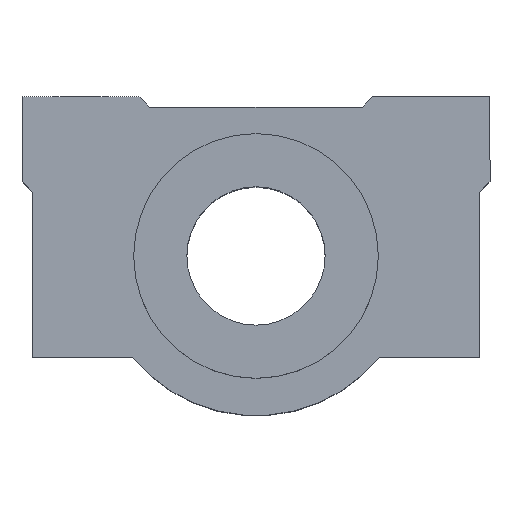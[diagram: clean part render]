
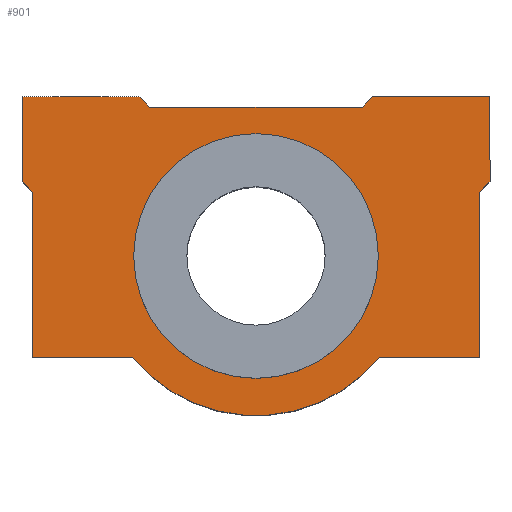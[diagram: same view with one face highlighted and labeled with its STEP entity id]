
A CAD part, top view. The second image highlights one B-rep face of the part: STEP entity #901.
In plain terms, the highlighted planar face has unit normal (0, 0, 1).
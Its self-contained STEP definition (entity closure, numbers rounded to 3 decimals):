
#133=CARTESIAN_POINT('',(-12.209,4.198,26.25));
#134=VERTEX_POINT('',#133);
#143=CARTESIAN_POINT('',(10.791,4.198,26.25));
#144=VERTEX_POINT('',#143);
#145=CARTESIAN_POINT('',(-0.709,4.198,26.25));
#146=DIRECTION('',(0.0,0.0,1.0));
#147=DIRECTION('',(-1.0,0.0,0.0));
#148=AXIS2_PLACEMENT_3D('',#145,#146,#147);
#149=CIRCLE('',#148,11.5);
#150=EDGE_CURVE('',#134,#144,#149,.T.);
#522=CARTESIAN_POINT('',(21.291,11.198,26.25));
#523=VERTEX_POINT('',#522);
#524=CARTESIAN_POINT('',(20.291,10.198,26.25));
#525=VERTEX_POINT('',#524);
#526=CARTESIAN_POINT('',(21.291,11.198,26.25));
#527=DIRECTION('',(-0.707,-0.707,0.0));
#528=VECTOR('',#527,1.414);
#529=LINE('',#526,#528);
#530=EDGE_CURVE('',#523,#525,#529,.T.);
#553=CARTESIAN_POINT('',(20.291,-5.302,26.25));
#554=VERTEX_POINT('',#553);
#555=CARTESIAN_POINT('',(20.291,10.198,26.25));
#556=DIRECTION('',(0.0,-1.0,0.0));
#557=VECTOR('',#556,15.5);
#558=LINE('',#555,#557);
#559=EDGE_CURVE('',#525,#554,#558,.T.);
#577=CARTESIAN_POINT('',(10.899,-5.302,26.25));
#578=VERTEX_POINT('',#577);
#579=CARTESIAN_POINT('',(20.291,-5.302,26.25));
#580=DIRECTION('',(-1.0,0.0,0.0));
#581=VECTOR('',#580,9.392);
#582=LINE('',#579,#581);
#583=EDGE_CURVE('',#554,#578,#582,.T.);
#605=CARTESIAN_POINT('',(-12.317,-5.302,26.25));
#606=VERTEX_POINT('',#605);
#607=CARTESIAN_POINT('',(-0.709,4.198,26.25));
#608=DIRECTION('',(0.0,0.0,-1.0));
#609=DIRECTION('',(0.774,0.633,0.0));
#610=AXIS2_PLACEMENT_3D('',#607,#608,#609);
#611=CIRCLE('',#610,15.);
#612=EDGE_CURVE('',#578,#606,#611,.T.);
#630=CARTESIAN_POINT('',(-21.709,-5.302,26.25));
#631=VERTEX_POINT('',#630);
#632=CARTESIAN_POINT('',(-12.317,-5.302,26.25));
#633=DIRECTION('',(-1.0,0.0,0.0));
#634=VECTOR('',#633,9.392);
#635=LINE('',#632,#634);
#636=EDGE_CURVE('',#606,#631,#635,.T.);
#658=CARTESIAN_POINT('',(-21.709,10.198,26.25));
#659=VERTEX_POINT('',#658);
#660=CARTESIAN_POINT('',(-21.709,-5.302,26.25));
#661=DIRECTION('',(0.0,1.0,0.0));
#662=VECTOR('',#661,15.5);
#663=LINE('',#660,#662);
#664=EDGE_CURVE('',#631,#659,#663,.T.);
#682=CARTESIAN_POINT('',(-22.709,11.198,26.25));
#683=VERTEX_POINT('',#682);
#684=CARTESIAN_POINT('',(-21.709,10.198,26.25));
#685=DIRECTION('',(-0.707,0.707,0.0));
#686=VECTOR('',#685,1.414);
#687=LINE('',#684,#686);
#688=EDGE_CURVE('',#659,#683,#687,.T.);
#706=CARTESIAN_POINT('',(-22.709,19.198,26.25));
#707=VERTEX_POINT('',#706);
#708=CARTESIAN_POINT('',(-22.709,11.198,26.25));
#709=DIRECTION('',(0.0,1.0,0.0));
#710=VECTOR('',#709,8.);
#711=LINE('',#708,#710);
#712=EDGE_CURVE('',#683,#707,#711,.T.);
#730=CARTESIAN_POINT('',(-11.709,19.198,26.25));
#731=VERTEX_POINT('',#730);
#732=CARTESIAN_POINT('',(-22.709,19.198,26.25));
#733=DIRECTION('',(1.0,0.0,0.0));
#734=VECTOR('',#733,11.);
#735=LINE('',#732,#734);
#736=EDGE_CURVE('',#707,#731,#735,.T.);
#758=CARTESIAN_POINT('',(-10.709,18.198,26.25));
#759=VERTEX_POINT('',#758);
#760=CARTESIAN_POINT('',(-11.709,19.198,26.25));
#761=DIRECTION('',(0.707,-0.707,0.0));
#762=VECTOR('',#761,1.414);
#763=LINE('',#760,#762);
#764=EDGE_CURVE('',#731,#759,#763,.T.);
#782=CARTESIAN_POINT('',(9.291,18.198,26.25));
#783=VERTEX_POINT('',#782);
#784=CARTESIAN_POINT('',(-10.709,18.198,26.25));
#785=DIRECTION('',(1.0,0.0,0.0));
#786=VECTOR('',#785,20.);
#787=LINE('',#784,#786);
#788=EDGE_CURVE('',#759,#783,#787,.T.);
#806=CARTESIAN_POINT('',(10.291,19.198,26.25));
#807=VERTEX_POINT('',#806);
#808=CARTESIAN_POINT('',(9.291,18.198,26.25));
#809=DIRECTION('',(0.707,0.707,0.0));
#810=VECTOR('',#809,1.414);
#811=LINE('',#808,#810);
#812=EDGE_CURVE('',#783,#807,#811,.T.);
#830=CARTESIAN_POINT('',(21.291,19.198,26.25));
#831=VERTEX_POINT('',#830);
#832=CARTESIAN_POINT('',(10.291,19.198,26.25));
#833=DIRECTION('',(1.0,0.0,0.0));
#834=VECTOR('',#833,11.);
#835=LINE('',#832,#834);
#836=EDGE_CURVE('',#807,#831,#835,.T.);
#858=CARTESIAN_POINT('',(21.291,19.198,26.25));
#859=DIRECTION('',(0.0,-1.0,0.0));
#860=VECTOR('',#859,8.);
#861=LINE('',#858,#860);
#862=EDGE_CURVE('',#831,#523,#861,.T.);
#870=CARTESIAN_POINT('',(-0.709,6.156,26.25));
#871=DIRECTION('',(0.0,0.0,1.0));
#872=DIRECTION('',(1.0,0.0,0.0));
#873=AXIS2_PLACEMENT_3D('',#870,#871,#872);
#874=PLANE('',#873);
#875=ORIENTED_EDGE('',*,*,#530,.F.);
#876=ORIENTED_EDGE('',*,*,#862,.F.);
#877=ORIENTED_EDGE('',*,*,#836,.F.);
#878=ORIENTED_EDGE('',*,*,#812,.F.);
#879=ORIENTED_EDGE('',*,*,#788,.F.);
#880=ORIENTED_EDGE('',*,*,#764,.F.);
#881=ORIENTED_EDGE('',*,*,#736,.F.);
#882=ORIENTED_EDGE('',*,*,#712,.F.);
#883=ORIENTED_EDGE('',*,*,#688,.F.);
#884=ORIENTED_EDGE('',*,*,#664,.F.);
#885=ORIENTED_EDGE('',*,*,#636,.F.);
#886=ORIENTED_EDGE('',*,*,#612,.F.);
#887=ORIENTED_EDGE('',*,*,#583,.F.);
#888=ORIENTED_EDGE('',*,*,#559,.F.);
#889=EDGE_LOOP('',(#875,#876,#877,#878,#879,#880,#881,#882,#883,#884,#885,#886,#887,#888));
#890=FACE_OUTER_BOUND('',#889,.T.);
#891=CARTESIAN_POINT('',(-0.709,4.198,26.25));
#892=DIRECTION('',(0.0,0.0,1.0));
#893=DIRECTION('',(-1.0,0.0,0.0));
#894=AXIS2_PLACEMENT_3D('',#891,#892,#893);
#895=CIRCLE('',#894,11.5);
#896=EDGE_CURVE('',#144,#134,#895,.T.);
#897=ORIENTED_EDGE('',*,*,#896,.F.);
#898=ORIENTED_EDGE('',*,*,#150,.F.);
#899=EDGE_LOOP('',(#897,#898));
#900=FACE_BOUND('',#899,.T.);
#901=ADVANCED_FACE('',(#890,#900),#874,.T.);
